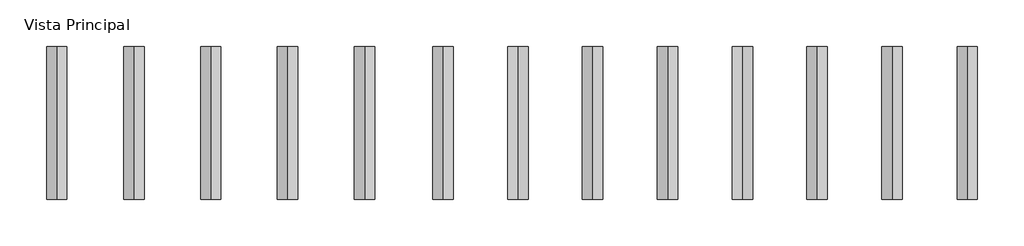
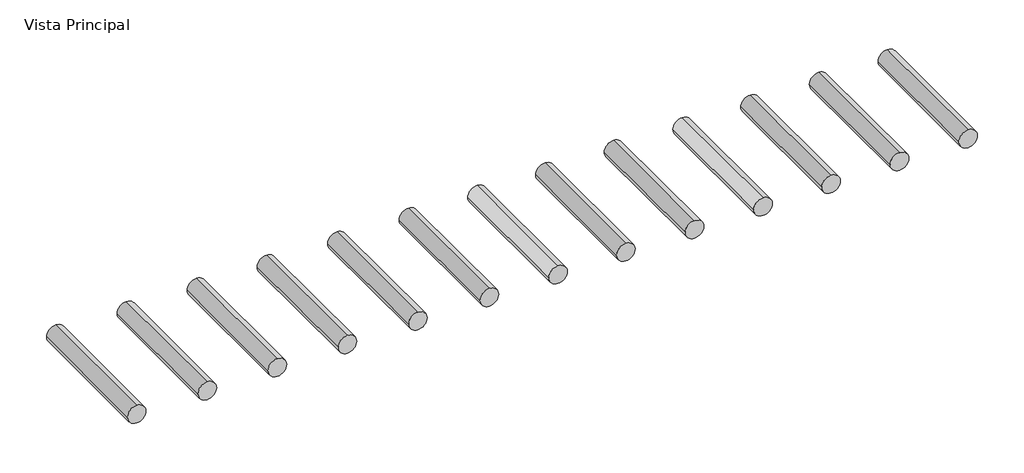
# One storey, incomplete: 13 pipe segments.
"""IFC4 building model written with IfcOpenShell, lengths in millimetres."""

import ifcopenshell
import ifcopenshell.guid

model = None  # the IFC model being written
_history = None  # IfcOwnerHistory: only IFC2X3 demands one
_inside = {}  # id of a spatial element -> (the spatial element, [elements in it])
_under = {}  # id of a project, library or spatial element -> (it, [spatial elements below it])
_declared = {}  # id of a project -> (the project, [libraries it declares])
_typed = {}  # id of a type object -> (the type object, [elements of that type])
_made_of = {}  # id of a material, layer set ... -> (it, [elements and type objects made of it])


def new_model(schema):
    """Start an empty IFC model of exactly this schema.

    Asked for "IFC4X3", IfcOpenShell would pick the latest addendum, in which some entities
    have other attributes; the version numbers below select the first issue.
    IFC2X3 requires an IfcOwnerHistory on every rooted entity: one is made here for all.
    """
    global model, _history
    if schema == "IFC4X3":
        model = ifcopenshell.file(schema_version=(4, 3, 0, 0))
    else:
        model = ifcopenshell.file(schema=schema)
    _inside.clear()
    _under.clear()
    _declared.clear()
    _typed.clear()
    _made_of.clear()
    _history = None
    if model.schema == "IFC2X3":
        org = make("IfcOrganization", Name="unknown")
        user = make(
            "IfcPersonAndOrganization",
            ThePerson=make("IfcPerson", FamilyName="unknown"),
            TheOrganization=org,
        )
        app = make(
            "IfcApplication",
            ApplicationDeveloper=org,
            Version="unknown",
            ApplicationFullName="unknown",
            ApplicationIdentifier="unknown",
        )
        _history = make(
            "IfcOwnerHistory",
            OwningUser=user,
            OwningApplication=app,
            ChangeAction="ADDED",
            CreationDate=0,
        )
    return model


def make(cls, **values):
    """One entity of the class cls with the attributes given. An attribute that is None is left unset."""
    return model.create_entity(
        cls, **{name: value for name, value in values.items() if value is not None}
    )


def rooted(cls, **values):
    """An entity with a GlobalId (a new one), such as an element, a storey or a relation."""
    return make(cls, GlobalId=ifcopenshell.guid.new(), OwnerHistory=_history, **values)


def si_unit(unit_type, name, prefix=None):
    """IfcSIUnit, for example si_unit("LENGTHUNIT", "METRE", prefix="MILLI")."""
    return make("IfcSIUnit", UnitType=unit_type, Prefix=prefix, Name=name)


def assignment(units):
    """IfcUnitAssignment: the units of a project."""
    return None if units is None else make("IfcUnitAssignment", Units=units)


def point(xyz):
    """IfcCartesianPoint."""
    return None if xyz is None else make("IfcCartesianPoint", Coordinates=xyz)


def direction(xyz):
    """IfcDirection."""
    return None if xyz is None else make("IfcDirection", DirectionRatios=xyz)


def frame(location, z_axis=None, x_axis=None):
    """IfcAxis2Placement3D, a coordinate frame: its origin and axes. An axis left out is left unset."""
    return make(
        "IfcAxis2Placement3D",
        Location=point(location),
        Axis=direction(z_axis),
        RefDirection=direction(x_axis),
    )


def frame_2d(location, x_axis=None):
    """IfcAxis2Placement2D, a coordinate frame in the plane: its origin and x axis."""
    return make(
        "IfcAxis2Placement2D", Location=point(location), RefDirection=direction(x_axis)
    )


def origin():
    """The frame at (0, 0, 0) with its axes left unset."""
    return frame((0.0, 0.0, 0.0))


def place(relative_to, where):
    """IfcLocalPlacement: puts the frame where relative to a parent placement (None: the world)."""
    return make(
        "IfcLocalPlacement", PlacementRelTo=relative_to, RelativePlacement=where
    )


def context(
    kind, dimensions, precision=None, world=None, true_north=None, identifier=None
):
    """IfcGeometricRepresentationContext, for example the 3D "Model" context."""
    return make(
        "IfcGeometricRepresentationContext",
        ContextIdentifier=identifier,
        ContextType=kind,
        CoordinateSpaceDimension=dimensions,
        Precision=precision,
        WorldCoordinateSystem=world,
        TrueNorth=true_north,
    )


def project(units=None, contexts=None):
    """IfcProject with its units and contexts."""
    return rooted(
        "IfcProject",
        Name="project",
        RepresentationContexts=contexts,
        UnitsInContext=assignment(units),
    )


def spatial(cls, under=None, at=None, **own):
    """A site, building, storey or space (cls), placed at a placement, below another one or the project."""
    s = rooted(cls, ObjectPlacement=at, **own)
    if under is not None:
        _under.setdefault(under.id(), (under, []))[1].append(s)
    return s


def circle_curve(where, radius):
    """IfcCircle in the frame where."""
    return make("IfcCircle", Position=where, Radius=radius)


def trimmed(basis, trim1, trim2, sense, master):
    """IfcTrimmedCurve: the piece of a basis curve between two trims."""
    return make(
        "IfcTrimmedCurve",
        BasisCurve=basis,
        Trim1=trim1,
        Trim2=trim2,
        SenseAgreement=sense,
        MasterRepresentation=master,
    )


def segment(curve, same_sense, transition):
    """IfcCompositeCurveSegment."""
    return make(
        "IfcCompositeCurveSegment",
        Transition=transition,
        SameSense=same_sense,
        ParentCurve=curve,
    )


def composite_curve(segments, self_intersect=None):
    """IfcCompositeCurve: segments joined end to end."""
    return make("IfcCompositeCurve", Segments=segments, SelfIntersect=self_intersect)


def outline(outer, holes=None, kind="AREA"):
    """IfcArbitraryClosedProfileDef: a profile drawn as a closed curve; with holes, ...WithVoids."""
    if holes is None:
        return make("IfcArbitraryClosedProfileDef", ProfileType=kind, OuterCurve=outer)
    return make(
        "IfcArbitraryProfileDefWithVoids",
        ProfileType=kind,
        OuterCurve=outer,
        InnerCurves=holes,
    )


def extrude(swept, where, along, depth):
    """IfcExtrudedAreaSolid: the profile swept, set in the frame where, extruded along a direction by depth."""
    return make(
        "IfcExtrudedAreaSolid",
        SweptArea=swept,
        Position=where,
        ExtrudedDirection=direction(along),
        Depth=depth,
    )


def shape(context_of_items, identifier, shape_type, items):
    """IfcShapeRepresentation: the items that make up one representation, for example the "Body"."""
    return make(
        "IfcShapeRepresentation",
        ContextOfItems=context_of_items,
        RepresentationIdentifier=identifier,
        RepresentationType=shape_type,
        Items=items,
    )


def made_of(thing, what):
    """Note that an element or type object is made of a material, layer set ...; save() writes the relation."""
    if what is not None:
        _made_of.setdefault(what.id(), (what, []))[1].append(thing)
    return thing


def element(
    cls,
    number,
    at=None,
    inside=None,
    cuts=None,
    type_object=None,
    material=None,
    context=None,
    identifier="Body",
    shape_type=None,
    held_by="IfcProductDefinitionShape",
    body=None,
    shapes=None,
    **own,
):
    """One element of the class cls, such as IfcWall. Its Tag is "e" and its number.

    at: its placement. inside: the storey or other place that contains it. cuts: it is an
    opening in that element (IfcRelVoidsElement). A single representation is given by context,
    identifier, shape_type and body (its items); several are given by shapes. held_by: the class
    of the entity that holds the representations. save() writes the other relations.
    """
    e = rooted(cls, Tag="e%d" % number, ObjectPlacement=at, **own)
    if body is not None:
        shapes = [shape(context, identifier, shape_type, body)]
    if shapes is not None:
        e.Representation = make(held_by, Representations=shapes)
    if inside is not None:
        _inside.setdefault(inside.id(), (inside, []))[1].append(e)
    if cuts is not None:
        rooted(
            "IfcRelVoidsElement", RelatingBuildingElement=cuts, RelatedOpeningElement=e
        )
    if type_object is not None:
        _typed.setdefault(type_object.id(), (type_object, []))[1].append(e)
    return made_of(e, material)


def aggregate(whole, parts):
    """IfcRelAggregates: a whole, such as a stair, and the parts it consists of."""
    return rooted("IfcRelAggregates", RelatingObject=whole, RelatedObjects=parts)


def save(model, path):
    """Write the relations noted so far, then the file.

    IfcRelAggregates (storeys below a building ...), IfcRelContainedInSpatialStructure (elements
    in a storey), IfcRelDefinesByType, IfcRelAssociatesMaterial and IfcRelDeclares: one each for
    every whole, place, type object, material and project.
    """
    for whole, parts in _under.values():
        aggregate(whole, parts)
    for where, things in _inside.values():
        rooted(
            "IfcRelContainedInSpatialStructure",
            RelatedElements=things,
            RelatingStructure=where,
        )
    for kind, things in _typed.values():
        rooted("IfcRelDefinesByType", RelatedObjects=things, RelatingType=kind)
    for what, things in _made_of.values():
        rooted("IfcRelAssociatesMaterial", RelatedObjects=things, RelatingMaterial=what)
    for by, libraries in _declared.values():
        rooted("IfcRelDeclares", RelatingContext=by, RelatedDefinitions=libraries)
    model.write(path)


model = new_model("IFC4")

# Units and contexts
model_context = context("Model", 3, world=origin())
ifc_project = project(units=[si_unit("LENGTHUNIT", "METRE", prefix="MILLI")], contexts=[model_context])

# Site, building, storey
site = spatial("IfcSite", under=ifc_project)
building = spatial("IfcBuilding", under=site)
storey = spatial("IfcBuildingStorey", under=building, Name="Vista Principal", Elevation=0.0)

# Pipe segments
placement = place(None, origin())
element("IfcPipeSegment", 1, ObjectType="PavcoWavin_Tuberias_PVC-U_PN5 UF-UR", at=placement, inside=storey, context=model_context, shape_type="SweptSolid", body=[
    extrude(outline(composite_curve([segment(trimmed(circle_curve(frame_2d((0.0, -2521.3494186)), 80.0), [point((0.0, -2601.3494186))], [point((-80.0, -2521.3494186))], False, "CARTESIAN"), True, "CONTINUOUS"), segment(trimmed(circle_curve(frame_2d((0.0, -2521.3494186)), 80.0), [point((-80.0, -2521.3494186))], [point((0.0, -2441.3494186))], False, "CARTESIAN"), True, "CONTINUOUS"), segment(trimmed(circle_curve(frame_2d((0.0, -2521.3494186)), 80.0), [point((0.0, -2441.3494186))], [point((80.0, -2521.3494186))], False, "CARTESIAN"), True, "CONTINUOUS"), segment(trimmed(circle_curve(frame_2d((0.0, -2521.3494186)), 80.0), [point((80.0, -2521.3494186))], [point((0.0, -2601.3494186))], False, "CARTESIAN"), True, "CONTINUOUS")], self_intersect=False)), frame((0.0, -503.3794634, 0.0), z_axis=(0.0, 1.0, 0.0), x_axis=(0.0, 0.0, 1.0)), (0.0, 0.0, 1.0), 1200.0),
])
element("IfcPipeSegment", 2, ObjectType="PavcoWavin_Tuberias_PVC-U_PN7.5 UF-UR", at=placement, inside=storey, context=model_context, shape_type="SweptSolid", body=[
    extrude(outline(composite_curve([segment(trimmed(circle_curve(frame_2d((0.0, -1932.9369776)), 80.0), [point((0.0, -1852.9369776))], [point((80.0, -1932.9369776))], False, "CARTESIAN"), True, "CONTINUOUS"), segment(trimmed(circle_curve(frame_2d((0.0, -1932.9369776)), 80.0), [point((80.0, -1932.9369776))], [point((0.0, -2012.9369776))], False, "CARTESIAN"), True, "CONTINUOUS"), segment(trimmed(circle_curve(frame_2d((0.0, -1932.9369776)), 80.0), [point((0.0, -2012.9369776))], [point((-80.0, -1932.9369776))], False, "CARTESIAN"), True, "CONTINUOUS"), segment(trimmed(circle_curve(frame_2d((0.0, -1932.9369776)), 80.0), [point((-80.0, -1932.9369776))], [point((0.0, -1852.9369776))], False, "CARTESIAN"), True, "CONTINUOUS")], self_intersect=False)), frame((0.0, -503.3794634, 0.0), z_axis=(0.0, 1.0, 0.0), x_axis=(0.0, 0.0, 1.0)), (0.0, 0.0, 1.0), 1200.0),
])
element("IfcPipeSegment", 3, ObjectType="PavcoWavin_Tuberias_PVC-U_PN10 UF-UR", at=placement, inside=storey, context=model_context, shape_type="SweptSolid", body=[
    extrude(outline(composite_curve([segment(trimmed(circle_curve(frame_2d((0.0, -1350.6979207)), 80.0), [point((0.0, -1430.6979207))], [point((-80.0, -1350.6979207))], False, "CARTESIAN"), True, "CONTINUOUS"), segment(trimmed(circle_curve(frame_2d((0.0, -1350.6979207)), 80.0), [point((-80.0, -1350.6979207))], [point((0.0, -1270.6979207))], False, "CARTESIAN"), True, "CONTINUOUS"), segment(trimmed(circle_curve(frame_2d((0.0, -1350.6979207)), 80.0), [point((0.0, -1270.6979207))], [point((80.0, -1350.6979207))], False, "CARTESIAN"), True, "CONTINUOUS"), segment(trimmed(circle_curve(frame_2d((0.0, -1350.6979207)), 80.0), [point((80.0, -1350.6979207))], [point((0.0, -1430.6979207))], False, "CARTESIAN"), True, "CONTINUOUS")], self_intersect=False)), frame((0.0, -503.3794634, 0.0), z_axis=(0.0, 1.0, 0.0), x_axis=(0.0, 0.0, 1.0)), (0.0, 0.0, 1.0), 1200.0),
])
element("IfcPipeSegment", 4, ObjectType="PavcoWavin_Tuberias_PVC-U_PN15 UF-UR", at=placement, inside=storey, context=model_context, shape_type="SweptSolid", body=[
    extrude(outline(composite_curve([segment(trimmed(circle_curve(frame_2d((0.0, -762.2854796)), 80.0), [point((0.0, -842.2854796))], [point((-80.0, -762.2854796))], False, "CARTESIAN"), True, "CONTINUOUS"), segment(trimmed(circle_curve(frame_2d((0.0, -762.2854796)), 80.0), [point((-80.0, -762.2854796))], [point((0.0, -682.2854796))], False, "CARTESIAN"), True, "CONTINUOUS"), segment(trimmed(circle_curve(frame_2d((0.0, -762.2854796)), 80.0), [point((0.0, -682.2854796))], [point((80.0, -762.2854796))], False, "CARTESIAN"), True, "CONTINUOUS"), segment(trimmed(circle_curve(frame_2d((0.0, -762.2854796)), 80.0), [point((80.0, -762.2854796))], [point((0.0, -842.2854796))], False, "CARTESIAN"), True, "CONTINUOUS")], self_intersect=False)), frame((0.0, -503.3794634, 0.0), z_axis=(0.0, 1.0, 0.0), x_axis=(0.0, 0.0, 1.0)), (0.0, 0.0, 1.0), 1200.0),
])
element("IfcPipeSegment", 5, ObjectType="PavcoWavin_Tuberias_PVC-U_PN5 UF-3S", at=placement, inside=storey, context=model_context, shape_type="SweptSolid", body=[
    extrude(outline(composite_curve([segment(trimmed(circle_curve(frame_2d((0.0, -173.8730386)), 80.0), [point((0.0, -93.8730386))], [point((80.0, -173.8730386))], False, "CARTESIAN"), True, "CONTINUOUS"), segment(trimmed(circle_curve(frame_2d((0.0, -173.8730386)), 80.0), [point((80.0, -173.8730386))], [point((0.0, -253.8730386))], False, "CARTESIAN"), True, "CONTINUOUS"), segment(trimmed(circle_curve(frame_2d((0.0, -173.8730386)), 80.0), [point((0.0, -253.8730386))], [point((-80.0, -173.8730386))], False, "CARTESIAN"), True, "CONTINUOUS"), segment(trimmed(circle_curve(frame_2d((0.0, -173.8730386)), 80.0), [point((-80.0, -173.8730386))], [point((0.0, -93.8730386))], False, "CARTESIAN"), True, "CONTINUOUS")], self_intersect=False)), frame((0.0, -503.3794634, 0.0), z_axis=(0.0, 1.0, 0.0), x_axis=(0.0, 0.0, 1.0)), (0.0, 0.0, 1.0), 1200.0),
])
element("IfcPipeSegment", 6, ObjectType="PavcoWavin_Tuberias_PVC-U_PN7.5 UF-3S", at=placement, inside=storey, context=model_context, shape_type="SweptSolid", body=[
    extrude(outline(composite_curve([segment(trimmed(circle_curve(frame_2d((0.0, 408.3660183)), 80.0), [point((0.0, 328.3660183))], [point((-80.0, 408.3660183))], False, "CARTESIAN"), True, "CONTINUOUS"), segment(trimmed(circle_curve(frame_2d((0.0, 408.3660183)), 80.0), [point((-80.0, 408.3660183))], [point((0.0, 488.3660183))], False, "CARTESIAN"), True, "CONTINUOUS"), segment(trimmed(circle_curve(frame_2d((0.0, 408.3660183)), 80.0), [point((0.0, 488.3660183))], [point((80.0, 408.3660183))], False, "CARTESIAN"), True, "CONTINUOUS"), segment(trimmed(circle_curve(frame_2d((0.0, 408.3660183)), 80.0), [point((80.0, 408.3660183))], [point((0.0, 328.3660183))], False, "CARTESIAN"), True, "CONTINUOUS")], self_intersect=False)), frame((0.0, -503.3794634, 0.0), z_axis=(0.0, 1.0, 0.0), x_axis=(0.0, 0.0, 1.0)), (0.0, 0.0, 1.0), 1200.0),
])
element("IfcPipeSegment", 7, ObjectType="PavcoWavin_Tuberias_PVC-U_PN10 UF-3S", at=placement, inside=storey, context=model_context, shape_type="SweptSolid", body=[
    extrude(outline(composite_curve([segment(trimmed(circle_curve(frame_2d((0.0, 996.7784594)), 80.0), [point((0.0, 916.7784594))], [point((-80.0, 996.7784594))], False, "CARTESIAN"), True, "CONTINUOUS"), segment(trimmed(circle_curve(frame_2d((0.0, 996.7784594)), 80.0), [point((-80.0, 996.7784594))], [point((0.0, 1076.7784594))], False, "CARTESIAN"), True, "CONTINUOUS"), segment(trimmed(circle_curve(frame_2d((0.0, 996.7784594)), 80.0), [point((0.0, 1076.7784594))], [point((80.0, 996.7784594))], False, "CARTESIAN"), True, "CONTINUOUS"), segment(trimmed(circle_curve(frame_2d((0.0, 996.7784594)), 80.0), [point((80.0, 996.7784594))], [point((0.0, 916.7784594))], False, "CARTESIAN"), True, "CONTINUOUS")], self_intersect=False)), frame((0.0, -503.3794634, 0.0), z_axis=(0.0, 1.0, 0.0), x_axis=(0.0, 0.0, 1.0)), (0.0, 0.0, 1.0), 1200.0),
])
element("IfcPipeSegment", 8, ObjectType="PavcoWavin_Tuberias_PVC-U_PN15 UF-3S", at=placement, inside=storey, context=model_context, shape_type="SweptSolid", body=[
    extrude(outline(composite_curve([segment(trimmed(circle_curve(frame_2d((0.0, 1585.1909004)), 80.0), [point((0.0, 1505.1909004))], [point((-80.0, 1585.1909004))], False, "CARTESIAN"), True, "CONTINUOUS"), segment(trimmed(circle_curve(frame_2d((0.0, 1585.1909004)), 80.0), [point((-80.0, 1585.1909004))], [point((0.0, 1665.1909004))], False, "CARTESIAN"), True, "CONTINUOUS"), segment(trimmed(circle_curve(frame_2d((0.0, 1585.1909004)), 80.0), [point((0.0, 1665.1909004))], [point((80.0, 1585.1909004))], False, "CARTESIAN"), True, "CONTINUOUS"), segment(trimmed(circle_curve(frame_2d((0.0, 1585.1909004)), 80.0), [point((80.0, 1585.1909004))], [point((0.0, 1505.1909004))], False, "CARTESIAN"), True, "CONTINUOUS")], self_intersect=False)), frame((0.0, -503.3794634, 0.0), z_axis=(0.0, 1.0, 0.0), x_axis=(0.0, 0.0, 1.0)), (0.0, 0.0, 1.0), 1200.0),
])
element("IfcPipeSegment", 9, ObjectType="PavcoWavin_Tuberias_PVC-O BIAXIAL_PN10_90 a 400 mm", at=placement, inside=storey, context=model_context, shape_type="SweptSolid", body=[
    extrude(outline(composite_curve([segment(trimmed(circle_curve(frame_2d((0.0, -4339.968131)), 80.0), [point((0.0, -4419.968131))], [point((-80.0, -4339.968131))], False, "CARTESIAN"), True, "CONTINUOUS"), segment(trimmed(circle_curve(frame_2d((0.0, -4339.968131)), 80.0), [point((-80.0, -4339.968131))], [point((0.0, -4259.968131))], False, "CARTESIAN"), True, "CONTINUOUS"), segment(trimmed(circle_curve(frame_2d((0.0, -4339.968131)), 80.0), [point((0.0, -4259.968131))], [point((80.0, -4339.968131))], False, "CARTESIAN"), True, "CONTINUOUS"), segment(trimmed(circle_curve(frame_2d((0.0, -4339.968131)), 80.0), [point((80.0, -4339.968131))], [point((0.0, -4419.968131))], False, "CARTESIAN"), True, "CONTINUOUS")], self_intersect=False)), frame((0.0, -503.3794634, 0.0), z_axis=(0.0, 1.0, 0.0), x_axis=(0.0, 0.0, 1.0)), (0.0, 0.0, 1.0), 1200.0),
])
element("IfcPipeSegment", 10, ObjectType="PavcoWavin_Tuberias_PVC-O BIAXIAL_PN12.5_90 a 400 mm", at=placement, inside=storey, context=model_context, shape_type="SweptSolid", body=[
    extrude(outline(composite_curve([segment(trimmed(circle_curve(frame_2d((0.0, -3738.9431639)), 80.0), [point((0.0, -3818.9431639))], [point((-80.0, -3738.9431639))], False, "CARTESIAN"), True, "CONTINUOUS"), segment(trimmed(circle_curve(frame_2d((0.0, -3738.9431639)), 80.0), [point((-80.0, -3738.9431639))], [point((0.0, -3658.9431639))], False, "CARTESIAN"), True, "CONTINUOUS"), segment(trimmed(circle_curve(frame_2d((0.0, -3738.9431639)), 80.0), [point((0.0, -3658.9431639))], [point((80.0, -3738.9431639))], False, "CARTESIAN"), True, "CONTINUOUS"), segment(trimmed(circle_curve(frame_2d((0.0, -3738.9431639)), 80.0), [point((80.0, -3738.9431639))], [point((0.0, -3818.9431639))], False, "CARTESIAN"), True, "CONTINUOUS")], self_intersect=False)), frame((0.0, -503.3794634, 0.0), z_axis=(0.0, 1.0, 0.0), x_axis=(0.0, 0.0, 1.0)), (0.0, 0.0, 1.0), 1200.0),
])
element("IfcPipeSegment", 11, ObjectType="PavcoWavin_Tuberias_PVC-O BIAXIAL_PN16_110 a 315 mm", at=placement, inside=storey, context=model_context, shape_type="SweptSolid", body=[
    extrude(outline(composite_curve([segment(trimmed(circle_curve(frame_2d((0.0, -3134.1778525)), 80.0), [point((0.0, -3214.1778525))], [point((-80.0, -3134.1778525))], False, "CARTESIAN"), True, "CONTINUOUS"), segment(trimmed(circle_curve(frame_2d((0.0, -3134.1778525)), 80.0), [point((-80.0, -3134.1778525))], [point((0.0, -3054.1778525))], False, "CARTESIAN"), True, "CONTINUOUS"), segment(trimmed(circle_curve(frame_2d((0.0, -3134.1778525)), 80.0), [point((0.0, -3054.1778525))], [point((80.0, -3134.1778525))], False, "CARTESIAN"), True, "CONTINUOUS"), segment(trimmed(circle_curve(frame_2d((0.0, -3134.1778525)), 80.0), [point((80.0, -3134.1778525))], [point((0.0, -3214.1778525))], False, "CARTESIAN"), True, "CONTINUOUS")], self_intersect=False)), frame((0.0, -503.3794634, 0.0), z_axis=(0.0, 1.0, 0.0), x_axis=(0.0, 0.0, 1.0)), (0.0, 0.0, 1.0), 1200.0),
])
element("IfcPipeSegment", 12, ObjectType="PavcoWavin_Tuberias_PVC-O BIAXIAL_PN8_90 a 400 mm", at=placement, inside=storey, context=model_context, shape_type="SweptSolid", body=[
    extrude(outline(composite_curve([segment(trimmed(circle_curve(frame_2d((0.0, -4940.9930981)), 80.0), [point((0.0, -5020.9930981))], [point((-80.0, -4940.9930981))], False, "CARTESIAN"), True, "CONTINUOUS"), segment(trimmed(circle_curve(frame_2d((0.0, -4940.9930981)), 80.0), [point((-80.0, -4940.9930981))], [point((0.0, -4860.9930981))], False, "CARTESIAN"), True, "CONTINUOUS"), segment(trimmed(circle_curve(frame_2d((0.0, -4940.9930981)), 80.0), [point((0.0, -4860.9930981))], [point((80.0, -4940.9930981))], False, "CARTESIAN"), True, "CONTINUOUS"), segment(trimmed(circle_curve(frame_2d((0.0, -4940.9930981)), 80.0), [point((80.0, -4940.9930981))], [point((0.0, -5020.9930981))], False, "CARTESIAN"), True, "CONTINUOUS")], self_intersect=False)), frame((0.0, -503.3794634, 0.0), z_axis=(0.0, 1.0, 0.0), x_axis=(0.0, 0.0, 1.0)), (0.0, 0.0, 1.0), 1200.0),
])
element("IfcPipeSegment", 13, ObjectType="PavcoWavin_Tuberias_PVC-O BIAXIAL_PN6.3 160 a 400 mm", at=placement, inside=storey, context=model_context, shape_type="SweptSolid", body=[
    extrude(outline(composite_curve([segment(trimmed(circle_curve(frame_2d((0.0, -5545.7584095)), 80.0), [point((0.0, -5625.7584095))], [point((-80.0, -5545.7584095))], False, "CARTESIAN"), True, "CONTINUOUS"), segment(trimmed(circle_curve(frame_2d((0.0, -5545.7584095)), 80.0), [point((-80.0, -5545.7584095))], [point((0.0, -5465.7584095))], False, "CARTESIAN"), True, "CONTINUOUS"), segment(trimmed(circle_curve(frame_2d((0.0, -5545.7584095)), 80.0), [point((0.0, -5465.7584095))], [point((80.0, -5545.7584095))], False, "CARTESIAN"), True, "CONTINUOUS"), segment(trimmed(circle_curve(frame_2d((0.0, -5545.7584095)), 80.0), [point((80.0, -5545.7584095))], [point((0.0, -5625.7584095))], False, "CARTESIAN"), True, "CONTINUOUS")], self_intersect=False)), frame((0.0, -503.3794634, 0.0), z_axis=(0.0, 1.0, 0.0), x_axis=(0.0, 0.0, 1.0)), (0.0, 0.0, 1.0), 1200.0),
])

save(model, "model.ifc")
